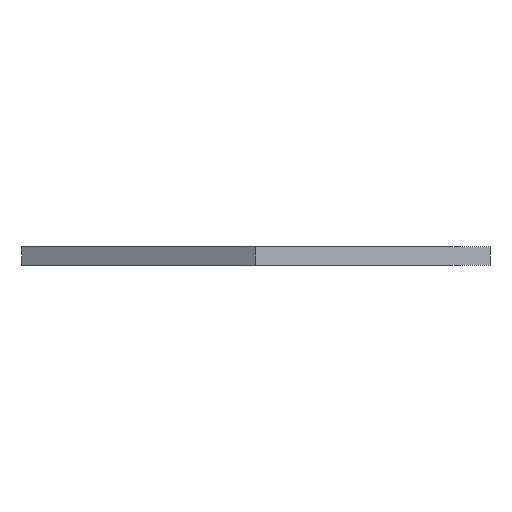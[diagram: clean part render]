
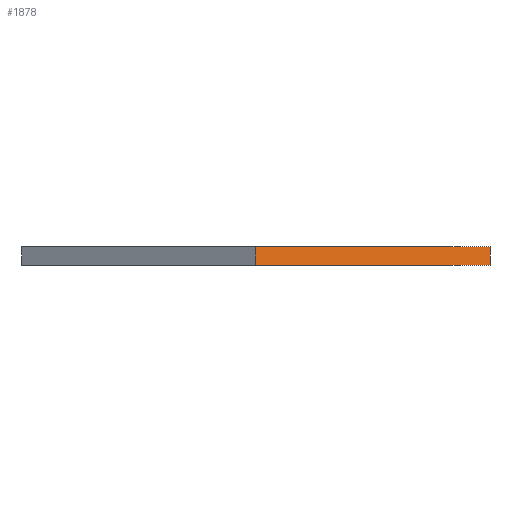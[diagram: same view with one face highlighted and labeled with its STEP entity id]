
A CAD part, front view. The second image highlights one B-rep face of the part: STEP entity #1878.
In plain terms, the highlighted planar face has unit normal (0.5, -0.866, 0).
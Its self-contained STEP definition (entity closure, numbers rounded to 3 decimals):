
#44 = PLANE('',#45);
#45 = AXIS2_PLACEMENT_3D('',#46,#47,#48);
#46 = CARTESIAN_POINT('',(102.5,-59.178,0.));
#47 = DIRECTION('',(-1.,0.,0.));
#48 = DIRECTION('',(0.,1.,0.));
#72 = PLANE('',#73);
#73 = AXIS2_PLACEMENT_3D('',#74,#75,#76);
#74 = CARTESIAN_POINT('',(0.,0.,8.));
#75 = DIRECTION('',(0.,0.,1.));
#76 = DIRECTION('',(1.,0.,-0.));
#126 = PLANE('',#127);
#127 = AXIS2_PLACEMENT_3D('',#128,#129,#130);
#128 = CARTESIAN_POINT('',(0.,0.,0.));
#129 = DIRECTION('',(0.,0.,1.));
#130 = DIRECTION('',(1.,0.,-0.));
#141 = EDGE_CURVE('',#142,#144,#146,.T.);
#142 = VERTEX_POINT('',#143);
#143 = CARTESIAN_POINT('',(102.5,-59.178,0.));
#144 = VERTEX_POINT('',#145);
#145 = CARTESIAN_POINT('',(102.5,-59.178,8.));
#146 = SURFACE_CURVE('',#147,(#151,#158),.PCURVE_S1.);
#147 = LINE('',#148,#149);
#148 = CARTESIAN_POINT('',(102.5,-59.178,0.));
#149 = VECTOR('',#150,1.);
#150 = DIRECTION('',(0.,0.,1.));
#151 = PCURVE('',#44,#152);
#152 = DEFINITIONAL_REPRESENTATION('',(#153),#157);
#153 = LINE('',#154,#155);
#154 = CARTESIAN_POINT('',(0.,0.));
#155 = VECTOR('',#156,1.);
#156 = DIRECTION('',(0.,-1.));
#157 = ( GEOMETRIC_REPRESENTATION_CONTEXT(2) 
PARAMETRIC_REPRESENTATION_CONTEXT() REPRESENTATION_CONTEXT('2D SPACE',''
  ) );
#158 = PCURVE('',#159,#164);
#159 = PLANE('',#160);
#160 = AXIS2_PLACEMENT_3D('',#161,#162,#163);
#161 = CARTESIAN_POINT('',(0.,-118.357,0.));
#162 = DIRECTION('',(-0.5,0.866,0.));
#163 = DIRECTION('',(0.866,0.5,0.));
#164 = DEFINITIONAL_REPRESENTATION('',(#165),#169);
#165 = LINE('',#166,#167);
#166 = CARTESIAN_POINT('',(118.357,0.));
#167 = VECTOR('',#168,1.);
#168 = DIRECTION('',(0.,-1.));
#169 = ( GEOMETRIC_REPRESENTATION_CONTEXT(2) 
PARAMETRIC_REPRESENTATION_CONTEXT() REPRESENTATION_CONTEXT('2D SPACE',''
  ) );
#319 = VERTEX_POINT('',#320);
#320 = CARTESIAN_POINT('',(0.,-118.357,0.));
#334 = PLANE('',#335);
#335 = AXIS2_PLACEMENT_3D('',#336,#337,#338);
#336 = CARTESIAN_POINT('',(-102.5,-59.178,0.));
#337 = DIRECTION('',(0.5,0.866,-0.));
#338 = DIRECTION('',(0.866,-0.5,0.));
#346 = EDGE_CURVE('',#319,#142,#347,.T.);
#347 = SURFACE_CURVE('',#348,(#352,#359),.PCURVE_S1.);
#348 = LINE('',#349,#350);
#349 = CARTESIAN_POINT('',(0.,-118.357,0.));
#350 = VECTOR('',#351,1.);
#351 = DIRECTION('',(0.866,0.5,0.));
#352 = PCURVE('',#126,#353);
#353 = DEFINITIONAL_REPRESENTATION('',(#354),#358);
#354 = LINE('',#355,#356);
#355 = CARTESIAN_POINT('',(0.,-118.357));
#356 = VECTOR('',#357,1.);
#357 = DIRECTION('',(0.866,0.5));
#358 = ( GEOMETRIC_REPRESENTATION_CONTEXT(2) 
PARAMETRIC_REPRESENTATION_CONTEXT() REPRESENTATION_CONTEXT('2D SPACE',''
  ) );
#359 = PCURVE('',#159,#360);
#360 = DEFINITIONAL_REPRESENTATION('',(#361),#365);
#361 = LINE('',#362,#363);
#362 = CARTESIAN_POINT('',(0.,0.));
#363 = VECTOR('',#364,1.);
#364 = DIRECTION('',(1.,0.));
#365 = ( GEOMETRIC_REPRESENTATION_CONTEXT(2) 
PARAMETRIC_REPRESENTATION_CONTEXT() REPRESENTATION_CONTEXT('2D SPACE',''
  ) );
#1191 = VERTEX_POINT('',#1192);
#1192 = CARTESIAN_POINT('',(0.,-118.357,8.));
#1213 = EDGE_CURVE('',#1191,#144,#1214,.T.);
#1214 = SURFACE_CURVE('',#1215,(#1219,#1226),.PCURVE_S1.);
#1215 = LINE('',#1216,#1217);
#1216 = CARTESIAN_POINT('',(0.,-118.357,8.));
#1217 = VECTOR('',#1218,1.);
#1218 = DIRECTION('',(0.866,0.5,0.));
#1219 = PCURVE('',#72,#1220);
#1220 = DEFINITIONAL_REPRESENTATION('',(#1221),#1225);
#1221 = LINE('',#1222,#1223);
#1222 = CARTESIAN_POINT('',(0.,-118.357));
#1223 = VECTOR('',#1224,1.);
#1224 = DIRECTION('',(0.866,0.5));
#1225 = ( GEOMETRIC_REPRESENTATION_CONTEXT(2) 
PARAMETRIC_REPRESENTATION_CONTEXT() REPRESENTATION_CONTEXT('2D SPACE',''
  ) );
#1226 = PCURVE('',#159,#1227);
#1227 = DEFINITIONAL_REPRESENTATION('',(#1228),#1232);
#1228 = LINE('',#1229,#1230);
#1229 = CARTESIAN_POINT('',(0.,-8.));
#1230 = VECTOR('',#1231,1.);
#1231 = DIRECTION('',(1.,0.));
#1232 = ( GEOMETRIC_REPRESENTATION_CONTEXT(2) 
PARAMETRIC_REPRESENTATION_CONTEXT() REPRESENTATION_CONTEXT('2D SPACE',''
  ) );
#1878 = ADVANCED_FACE('',(#1879),#159,.F.);
#1879 = FACE_BOUND('',#1880,.F.);
#1880 = EDGE_LOOP('',(#1881,#1902,#1903,#1904));
#1881 = ORIENTED_EDGE('',*,*,#1882,.T.);
#1882 = EDGE_CURVE('',#319,#1191,#1883,.T.);
#1883 = SURFACE_CURVE('',#1884,(#1888,#1895),.PCURVE_S1.);
#1884 = LINE('',#1885,#1886);
#1885 = CARTESIAN_POINT('',(0.,-118.357,0.));
#1886 = VECTOR('',#1887,1.);
#1887 = DIRECTION('',(0.,0.,1.));
#1888 = PCURVE('',#159,#1889);
#1889 = DEFINITIONAL_REPRESENTATION('',(#1890),#1894);
#1890 = LINE('',#1891,#1892);
#1891 = CARTESIAN_POINT('',(0.,0.));
#1892 = VECTOR('',#1893,1.);
#1893 = DIRECTION('',(0.,-1.));
#1894 = ( GEOMETRIC_REPRESENTATION_CONTEXT(2) 
PARAMETRIC_REPRESENTATION_CONTEXT() REPRESENTATION_CONTEXT('2D SPACE',''
  ) );
#1895 = PCURVE('',#334,#1896);
#1896 = DEFINITIONAL_REPRESENTATION('',(#1897),#1901);
#1897 = LINE('',#1898,#1899);
#1898 = CARTESIAN_POINT('',(118.357,0.));
#1899 = VECTOR('',#1900,1.);
#1900 = DIRECTION('',(0.,-1.));
#1901 = ( GEOMETRIC_REPRESENTATION_CONTEXT(2) 
PARAMETRIC_REPRESENTATION_CONTEXT() REPRESENTATION_CONTEXT('2D SPACE',''
  ) );
#1902 = ORIENTED_EDGE('',*,*,#1213,.T.);
#1903 = ORIENTED_EDGE('',*,*,#141,.F.);
#1904 = ORIENTED_EDGE('',*,*,#346,.F.);
